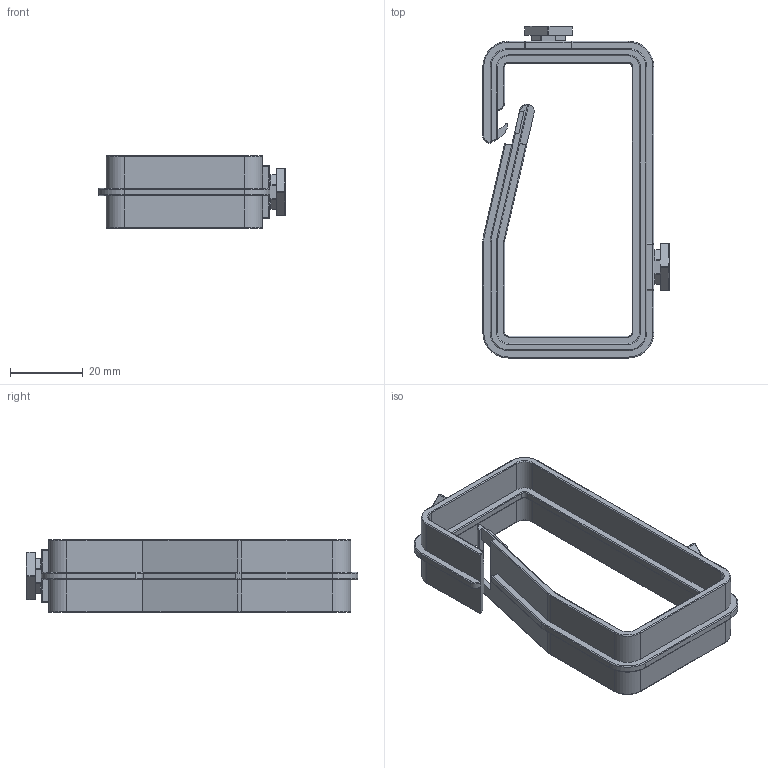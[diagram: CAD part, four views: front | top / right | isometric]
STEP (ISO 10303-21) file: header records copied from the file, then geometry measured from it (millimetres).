
FILE_DESCRIPTION (( 'STEP AP214' ), '1' );
FILE_NAME ('B 10 IC Îðãàíèçàòîð êàáåëüíûé.STEP', '2021-12-30T10:24:59', ( '' ), ( '' ), 'SwSTEP 2.0', 'SolidWorks 2018', '' );
FILE_SCHEMA (( 'AUTOMOTIVE_DESIGN' ));
Length unit declared in the file: millimetre
Products named in the file (1): B 10 IC Îðãàíèçàòîð êàáåëüíûé
Bounding box: 51.2 x 91.2 x 20 mm (x, y, z)
Volume: 13040 mm3; surface area: 13155.6 mm2
Topology: 1 solids, 1 shells, 346 faces, 868 edges, 509 vertices
Faces by surface type: cylinder 155, plane 120, torus 47, sphere 22, bspline 2
Entity records: 10232 total; most frequent: DIRECTION 1882, CARTESIAN_POINT 1852, ORIENTED_EDGE 1702, EDGE_CURVE 851, AXIS2_PLACEMENT_3D 706, VERTEX_POINT 508, VECTOR 470, LINE 470
